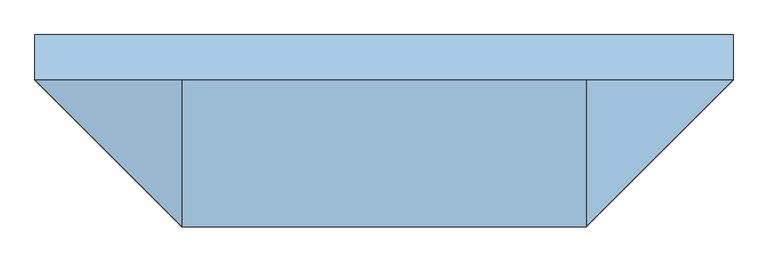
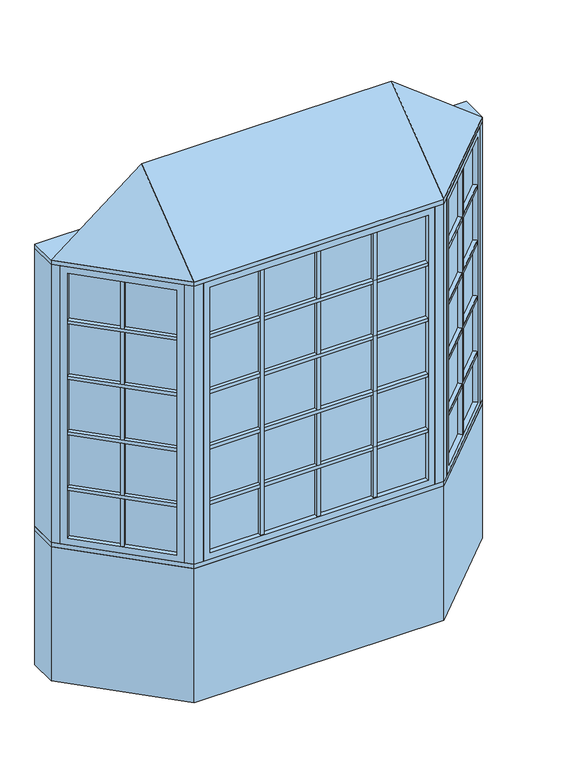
"""IFC4 building model written with IfcOpenShell, lengths in millimetres: window geometry, Pollard_Windows_Tudor Casement Bows and Bays : AML-BAY 45 AFR0616-12-600_GC."""

from ifc_helpers import new_model, si_unit, frame, origin, origin_with_axes, place, context, project, spatial, polyline, outline, extrude, faceted_brep, source, transform, mapped, element, save


def window_9ae6f43e(model_context):
    return source(origin(), model_context, "Body", "SolidModel", [
        extrude(outline(polyline([(739.5114193, -506.9608753), (723.9550701, -491.4045261), (1101.616171, -113.7434252), (1117.1725202, -129.2997743), (739.5114193, -506.9608753)])), frame((0.0, 0.0, 1110.998), z_axis=(0.0, 0.0, 1.0), x_axis=(1.0, 0.0, 0.0)), (0.0, 0.0, 1.0), 18.0),
        extrude(outline(polyline([(720.3629677, -487.8124236), (704.8066185, -472.2560744), (1082.4677194, -94.5949735), (1098.0240686, -110.1513227), (720.3629677, -487.8124236)])), frame((0.0, 0.0, 1110.998), z_axis=(0.0, 0.0, 1.0), x_axis=(1.0, 0.0, 0.0)), (0.0, 0.0, 1.0), 18.0),
        extrude(outline(polyline([(739.5114193, -506.9608753), (723.9550701, -491.4045261), (1101.616171, -113.7434252), (1117.1725202, -129.2997743), (739.5114193, -506.9608753)])), frame((0.0, 0.0, 1430.998), z_axis=(0.0, 0.0, 1.0), x_axis=(1.0, 0.0, 0.0)), (0.0, 0.0, 1.0), 18.0),
        extrude(outline(polyline([(720.3629677, -487.8124236), (704.8066185, -472.2560744), (1082.4677194, -94.5949735), (1098.0240686, -110.1513227), (720.3629677, -487.8124236)])), frame((0.0, 0.0, 1430.998), z_axis=(0.0, 0.0, 1.0), x_axis=(1.0, 0.0, 0.0)), (0.0, 0.0, 1.0), 18.0),
        extrude(outline(polyline([(739.5114193, -506.9608753), (723.9550701, -491.4045261), (1101.616171, -113.7434252), (1117.1725202, -129.2997743), (739.5114193, -506.9608753)])), frame((0.0, 0.0, 1750.998), z_axis=(0.0, 0.0, 1.0), x_axis=(1.0, 0.0, 0.0)), (0.0, 0.0, 1.0), 18.0),
        extrude(outline(polyline([(720.3629677, -487.8124236), (704.8066185, -472.2560744), (1082.4677194, -94.5949735), (1098.0240686, -110.1513227), (720.3629677, -487.8124236)])), frame((0.0, 0.0, 1750.998), z_axis=(0.0, 0.0, 1.0), x_axis=(1.0, 0.0, 0.0)), (0.0, 0.0, 1.0), 18.0),
        extrude(outline(polyline([(739.5114193, -506.9608753), (723.9550701, -491.4045261), (1101.616171, -113.7434252), (1117.1725202, -129.2997743), (739.5114193, -506.9608753)])), frame((0.0, 0.0, 2070.998), z_axis=(0.0, 0.0, 1.0), x_axis=(1.0, 0.0, 0.0)), (0.0, 0.0, 1.0), 18.0),
        extrude(outline(polyline([(720.3629677, -487.8124236), (704.8066185, -472.2560744), (1082.4677194, -94.5949735), (1098.0240686, -110.1513227), (720.3629677, -487.8124236)])), frame((0.0, 0.0, 2070.998), z_axis=(0.0, 0.0, 1.0), x_axis=(1.0, 0.0, 0.0)), (0.0, 0.0, 1.0), 18.0),
        extrude(outline(polyline([(919.1495816, -296.2100146), (934.7059308, -311.7663638), (921.9780087, -324.4942858), (906.4216595, -308.9379366), (919.1495816, -296.2100146)])), frame((0.0, 0.0, 835.8628), z_axis=(0.0, 0.0, 1.0), x_axis=(1.0, 0.0, 0.0)), (0.0, 0.0, 1.0), 1528.2704),
        extrude(outline(polyline([(915.5574791, -292.6179121), (902.8295571, -305.3458342), (887.2732079, -289.789485), (900.00113, -277.0615629), (915.5574791, -292.6179121)])), frame((0.0, 0.0, 835.8628), z_axis=(0.0, 0.0, 1.0), x_axis=(1.0, 0.0, 0.0)), (0.0, 0.0, 1.0), 1528.2704),
        extrude(outline(polyline([(1110.5964271, -104.763169), (714.974814, -500.3847822), (711.3827115, -496.7926797), (1107.0043247, -101.1710666), (1110.5964271, -104.763169)])), frame((0.0, 0.0, 823.1628), z_axis=(0.0, 0.0, 1.0), x_axis=(1.0, 0.0, 0.0)), (0.0, 0.0, 1.0), 1553.6704),
        faceted_brep([(1101.616171, -113.7434252, 835.8628), (1119.5766833, -131.7039374, 835.8628), (1119.5766833, -131.7039374, 2364.1332), (1101.616171, -113.7434252, 2364.1332), (1107.0043247, -101.1710666, 823.1628), (1110.5964271, -104.763169, 823.1628), (1110.5964271, -104.763169, 2376.8332), (1107.0043247, -101.1710666, 2376.8332), (1080.0635563, -92.1908105, 835.8628), (1098.0240686, -110.1513227, 835.8628), (1098.0240686, -110.1513227, 2364.1332), (1080.0635563, -92.1908105, 2364.1332), (1144.9369265, -106.3436941, 799.998), (1105.4237996, -66.8305672, 799.998), (1105.4237996, -66.8305672, 2399.998), (1144.9369265, -106.3436941, 2399.998), (741.9155823, -509.3650383, 2364.1332), (723.9550701, -491.4045261, 2364.1332), (714.974814, -500.3847822, 2376.8332), (711.3827115, -496.7926797, 2376.8332), (720.3629677, -487.8124236, 2364.1332), (702.4024554, -469.8519114, 2364.1332), (677.0422121, -495.2121547, 2399.998), (716.5553391, -534.7252816, 2399.998), (741.9155823, -509.3650383, 835.8628), (723.9550701, -491.4045261, 835.8628), (714.974814, -500.3847822, 823.1628), (711.3827115, -496.7926797, 823.1628), (720.3629677, -487.8124236, 835.8628), (702.4024554, -469.8519114, 835.8628), (677.0422121, -495.2121547, 799.998), (716.5553391, -534.7252816, 799.998)], [[[0, 1, 2, 3]], [[4, 5, 6, 7]], [[8, 9, 10, 11]], [[12, 13, 14, 15]], [[3, 2, 16, 17]], [[7, 6, 18, 19]], [[11, 10, 20, 21]], [[15, 14, 22, 23]], [[17, 16, 24, 25]], [[19, 18, 26, 27]], [[21, 20, 28, 29]], [[23, 22, 30, 31]], [[25, 24, 1, 0]], [[5, 26, 18, 6], [3, 17, 25, 0]], [[27, 26, 5, 4]], [[7, 19, 27, 4], [9, 28, 20, 10]], [[29, 28, 9, 8]], [[13, 30, 22, 14], [11, 21, 29, 8]], [[31, 30, 13, 12]], [[15, 23, 31, 12], [1, 24, 16, 2]]]),
        extrude(outline(polyline([(317.5177, -544.6806207), (317.5177, -566.6806207), (299.5177, -566.6806207), (299.5177, -544.6806207), (317.5177, -544.6806207)])), frame((0.0, 0.0, 835.8628), z_axis=(0.0, 0.0, 1.0), x_axis=(1.0, 0.0, 0.0)), (0.0, 0.0, 1.0), 1528.2704),
        extrude(outline(polyline([(317.5177, -539.6006207), (299.5177, -539.6006207), (299.5177, -517.6006207), (317.5177, -517.6006207), (317.5177, -539.6006207)])), frame((0.0, 0.0, 835.8628), z_axis=(0.0, 0.0, 1.0), x_axis=(1.0, 0.0, 0.0)), (0.0, 0.0, 1.0), 1528.2704),
        extrude(outline(polyline([(-299.5177, -544.6806207), (-299.5177, -566.6806207), (-317.5177, -566.6806207), (-317.5177, -544.6806207), (-299.5177, -544.6806207)])), frame((0.0, 0.0, 835.8628), z_axis=(0.0, 0.0, 1.0), x_axis=(1.0, 0.0, 0.0)), (0.0, 0.0, 1.0), 1528.2704),
        extrude(outline(polyline([(-299.5177, -539.6006207), (-317.5177, -539.6006207), (-317.5177, -517.6006207), (-299.5177, -517.6006207), (-299.5177, -539.6006207)])), frame((0.0, 0.0, 835.8628), z_axis=(0.0, 0.0, 1.0), x_axis=(1.0, 0.0, 0.0)), (0.0, 0.0, 1.0), 1528.2704),
        extrude(outline(polyline([(-595.3352, -566.6806207), (-595.3352, -544.6806207), (595.3352, -544.6806207), (595.3352, -566.6806207), (-595.3352, -566.6806207)])), frame((0.0, 0.0, 1110.998), z_axis=(0.0, 0.0, 1.0), x_axis=(1.0, 0.0, 0.0)), (0.0, 0.0, 1.0), 18.0),
        extrude(outline(polyline([(-595.3352, -539.6006207), (-595.3352, -517.6006207), (595.3352, -517.6006207), (595.3352, -539.6006207), (-595.3352, -539.6006207)])), frame((0.0, 0.0, 1110.998), z_axis=(0.0, 0.0, 1.0), x_axis=(1.0, 0.0, 0.0)), (0.0, 0.0, 1.0), 18.0),
        extrude(outline(polyline([(-595.3352, -566.6806207), (-595.3352, -544.6806207), (595.3352, -544.6806207), (595.3352, -566.6806207), (-595.3352, -566.6806207)])), frame((0.0, 0.0, 1430.998), z_axis=(0.0, 0.0, 1.0), x_axis=(1.0, 0.0, 0.0)), (0.0, 0.0, 1.0), 18.0),
        extrude(outline(polyline([(-595.3352, -539.6006207), (-595.3352, -517.6006207), (595.3352, -517.6006207), (595.3352, -539.6006207), (-595.3352, -539.6006207)])), frame((0.0, 0.0, 1430.998), z_axis=(0.0, 0.0, 1.0), x_axis=(1.0, 0.0, 0.0)), (0.0, 0.0, 1.0), 18.0),
        extrude(outline(polyline([(-595.3352, -566.6806207), (-595.3352, -544.6806207), (595.3352, -544.6806207), (595.3352, -566.6806207), (-595.3352, -566.6806207)])), frame((0.0, 0.0, 1750.998), z_axis=(0.0, 0.0, 1.0), x_axis=(1.0, 0.0, 0.0)), (0.0, 0.0, 1.0), 18.0),
        extrude(outline(polyline([(-595.3352, -539.6006207), (-595.3352, -517.6006207), (595.3352, -517.6006207), (595.3352, -539.6006207), (-595.3352, -539.6006207)])), frame((0.0, 0.0, 1750.998), z_axis=(0.0, 0.0, 1.0), x_axis=(1.0, 0.0, 0.0)), (0.0, 0.0, 1.0), 18.0),
        extrude(outline(polyline([(-1117.1725202, -129.2997743), (-1101.616171, -113.7434252), (-723.9550701, -491.4045261), (-739.5114193, -506.9608753), (-1117.1725202, -129.2997743)])), frame((0.0, 0.0, 1110.998), z_axis=(0.0, 0.0, 1.0), x_axis=(1.0, 0.0, 0.0)), (0.0, 0.0, 1.0), 18.0),
        extrude(outline(polyline([(-1098.0240686, -110.1513227), (-1082.4677194, -94.5949735), (-704.8066185, -472.2560744), (-720.3629677, -487.8124236), (-1098.0240686, -110.1513227)])), frame((0.0, 0.0, 1110.998), z_axis=(0.0, 0.0, 1.0), x_axis=(1.0, 0.0, 0.0)), (0.0, 0.0, 1.0), 18.0),
        extrude(outline(polyline([(-1117.1725202, -129.2997743), (-1101.616171, -113.7434252), (-723.9550701, -491.4045261), (-739.5114193, -506.9608753), (-1117.1725202, -129.2997743)])), frame((0.0, 0.0, 1430.998), z_axis=(0.0, 0.0, 1.0), x_axis=(1.0, 0.0, 0.0)), (0.0, 0.0, 1.0), 18.0),
        extrude(outline(polyline([(-1098.0240686, -110.1513227), (-1082.4677194, -94.5949735), (-704.8066185, -472.2560744), (-720.3629677, -487.8124236), (-1098.0240686, -110.1513227)])), frame((0.0, 0.0, 1430.998), z_axis=(0.0, 0.0, 1.0), x_axis=(1.0, 0.0, 0.0)), (0.0, 0.0, 1.0), 18.0),
        extrude(outline(polyline([(-1117.1725202, -129.2997743), (-1101.616171, -113.7434252), (-723.9550701, -491.4045261), (-739.5114193, -506.9608753), (-1117.1725202, -129.2997743)])), frame((0.0, 0.0, 1750.998), z_axis=(0.0, 0.0, 1.0), x_axis=(1.0, 0.0, 0.0)), (0.0, 0.0, 1.0), 18.0),
        extrude(outline(polyline([(-1098.0240686, -110.1513227), (-1082.4677194, -94.5949735), (-704.8066185, -472.2560744), (-720.3629677, -487.8124236), (-1098.0240686, -110.1513227)])), frame((0.0, 0.0, 1750.998), z_axis=(0.0, 0.0, 1.0), x_axis=(1.0, 0.0, 0.0)), (0.0, 0.0, 1.0), 18.0),
        extrude(outline(polyline([(-1117.1725202, -129.2997743), (-1101.616171, -113.7434252), (-723.9550701, -491.4045261), (-739.5114193, -506.9608753), (-1117.1725202, -129.2997743)])), frame((0.0, 0.0, 2070.998), z_axis=(0.0, 0.0, 1.0), x_axis=(1.0, 0.0, 0.0)), (0.0, 0.0, 1.0), 18.0),
        extrude(outline(polyline([(-1098.0240686, -110.1513227), (-1082.4677194, -94.5949735), (-704.8066185, -472.2560744), (-720.3629677, -487.8124236), (-1098.0240686, -110.1513227)])), frame((0.0, 0.0, 2070.998), z_axis=(0.0, 0.0, 1.0), x_axis=(1.0, 0.0, 0.0)), (0.0, 0.0, 1.0), 18.0),
        extrude(outline(polyline([(-595.3352, -566.6806207), (-595.3352, -544.6806207), (595.3352, -544.6806207), (595.3352, -566.6806207), (-595.3352, -566.6806207)])), frame((0.0, 0.0, 2070.998), z_axis=(0.0, 0.0, 1.0), x_axis=(1.0, 0.0, 0.0)), (0.0, 0.0, 1.0), 18.0),
        extrude(outline(polyline([(-595.3352, -539.6006207), (-595.3352, -517.6006207), (595.3352, -517.6006207), (595.3352, -539.6006207), (-595.3352, -539.6006207)])), frame((0.0, 0.0, 2070.998), z_axis=(0.0, 0.0, 1.0), x_axis=(1.0, 0.0, 0.0)), (0.0, 0.0, 1.0), 18.0),
        extrude(outline(polyline([(-906.4216595, -308.9379366), (-921.9780087, -324.4942858), (-934.7059308, -311.7663638), (-919.1495816, -296.2100146), (-906.4216595, -308.9379366)])), frame((0.0, 0.0, 835.8628), z_axis=(0.0, 0.0, 1.0), x_axis=(1.0, 0.0, 0.0)), (0.0, 0.0, 1.0), 1528.2704),
        extrude(outline(polyline([(-902.8295571, -305.3458342), (-915.5574791, -292.6179121), (-900.00113, -277.0615629), (-887.2732079, -289.789485), (-902.8295571, -305.3458342)])), frame((0.0, 0.0, 835.8628), z_axis=(0.0, 0.0, 1.0), x_axis=(1.0, 0.0, 0.0)), (0.0, 0.0, 1.0), 1528.2704),
        extrude(outline(polyline([(9.0, -544.6806207), (9.0, -566.6806207), (-9.0, -566.6806207), (-9.0, -544.6806207), (9.0, -544.6806207)])), frame((0.0, 0.0, 835.8628), z_axis=(0.0, 0.0, 1.0), x_axis=(1.0, 0.0, 0.0)), (0.0, 0.0, 1.0), 1528.2704),
        extrude(outline(polyline([(9.0, -539.6006207), (-9.0, -539.6006207), (-9.0, -517.6006207), (9.0, -517.6006207), (9.0, -539.6006207)])), frame((0.0, 0.0, 835.8628), z_axis=(0.0, 0.0, 1.0), x_axis=(1.0, 0.0, 0.0)), (0.0, 0.0, 1.0), 1528.2704),
        extrude(outline(polyline([(-714.974814, -500.3847822), (-1110.5964271, -104.763169), (-1107.0043247, -101.1710666), (-711.3827115, -496.7926797), (-714.974814, -500.3847822)])), frame((0.0, 0.0, 823.1628), z_axis=(0.0, 0.0, 1.0), x_axis=(1.0, 0.0, 0.0)), (0.0, 0.0, 1.0), 1553.6704),
        faceted_brep([(-720.3629677, -487.8124236, 2364.1332), (-702.4024554, -469.8519114, 2364.1332), (-702.4024554, -469.8519114, 835.8628), (-720.3629677, -487.8124236, 835.8628), (-714.974814, -500.3847822, 2376.8332), (-711.3827115, -496.7926797, 2376.8332), (-711.3827115, -496.7926797, 823.1628), (-714.974814, -500.3847822, 823.1628), (-741.9155823, -509.3650383, 2364.1332), (-723.9550701, -491.4045261, 2364.1332), (-723.9550701, -491.4045261, 835.8628), (-741.9155823, -509.3650383, 835.8628), (-677.0422121, -495.2121547, 2399.998), (-716.5553391, -534.7252816, 2399.998), (-716.5553391, -534.7252816, 799.998), (-677.0422121, -495.2121547, 799.998), (-1080.0635563, -92.1908105, 835.8628), (-1098.0240686, -110.1513227, 835.8628), (-1107.0043247, -101.1710666, 823.1628), (-1110.5964271, -104.763169, 823.1628), (-1101.616171, -113.7434252, 835.8628), (-1119.5766833, -131.7039374, 835.8628), (-1144.9369265, -106.3436941, 799.998), (-1105.4237996, -66.8305672, 799.998), (-1080.0635563, -92.1908105, 2364.1332), (-1098.0240686, -110.1513227, 2364.1332), (-1107.0043247, -101.1710666, 2376.8332), (-1110.5964271, -104.763169, 2376.8332), (-1101.616171, -113.7434252, 2364.1332), (-1119.5766833, -131.7039374, 2364.1332), (-1144.9369265, -106.3436941, 2399.998), (-1105.4237996, -66.8305672, 2399.998)], [[[0, 1, 2, 3]], [[4, 5, 6, 7]], [[8, 9, 10, 11]], [[12, 13, 14, 15]], [[3, 2, 16, 17]], [[7, 6, 18, 19]], [[11, 10, 20, 21]], [[15, 14, 22, 23]], [[17, 16, 24, 25]], [[19, 18, 26, 27]], [[21, 20, 28, 29]], [[23, 22, 30, 31]], [[15, 23, 31, 12], [1, 24, 16, 2]], [[25, 24, 1, 0]], [[5, 26, 18, 6], [3, 17, 25, 0]], [[27, 26, 5, 4]], [[7, 19, 27, 4], [9, 28, 20, 10]], [[29, 28, 9, 8]], [[13, 30, 22, 14], [11, 21, 29, 8]], [[31, 30, 13, 12]]]),
        extrude(outline(polyline([(608.0352, -544.6806207), (-608.0352, -544.6806207), (-608.0352, -539.6006207), (608.0352, -539.6006207), (608.0352, -544.6806207)])), frame((0.0, 0.0, 823.1628), z_axis=(0.0, 0.0, 1.0), x_axis=(1.0, 0.0, 0.0)), (0.0, 0.0, 1.0), 1553.6704),
        faceted_brep([(595.3352, -544.6806207, 835.8628), (595.3352, -570.0806207, 835.8628), (595.3352, -570.0806207, 2364.1332), (595.3352, -544.6806207, 2364.1332), (608.0352, -539.6006207, 823.1628), (608.0352, -544.6806207, 823.1628), (608.0352, -544.6806207, 2376.8332), (608.0352, -539.6006207, 2376.8332), (595.3352, -514.2006207, 835.8628), (595.3352, -539.6006207, 835.8628), (595.3352, -539.6006207, 2364.1332), (595.3352, -514.2006207, 2364.1332), (631.2, -570.0806207, 799.998), (631.2, -514.2006207, 799.998), (631.2, -514.2006207, 2399.998), (631.2, -570.0806207, 2399.998), (-595.3352, -570.0806207, 2364.1332), (-595.3352, -544.6806207, 2364.1332), (-608.0352, -544.6806207, 2376.8332), (-608.0352, -539.6006207, 2376.8332), (-595.3352, -539.6006207, 2364.1332), (-595.3352, -514.2006207, 2364.1332), (-631.2, -514.2006207, 2399.998), (-631.2, -570.0806207, 2399.998), (-595.3352, -570.0806207, 835.8628), (-595.3352, -544.6806207, 835.8628), (-608.0352, -544.6806207, 823.1628), (-608.0352, -539.6006207, 823.1628), (-595.3352, -539.6006207, 835.8628), (-595.3352, -514.2006207, 835.8628), (-631.2, -514.2006207, 799.998), (-631.2, -570.0806207, 799.998)], [[[0, 1, 2, 3]], [[4, 5, 6, 7]], [[8, 9, 10, 11]], [[12, 13, 14, 15]], [[3, 2, 16, 17]], [[7, 6, 18, 19]], [[11, 10, 20, 21]], [[15, 14, 22, 23]], [[17, 16, 24, 25]], [[19, 18, 26, 27]], [[21, 20, 28, 29]], [[23, 22, 30, 31]], [[15, 23, 31, 12], [1, 24, 16, 2]], [[25, 24, 1, 0]], [[5, 26, 18, 6], [3, 17, 25, 0]], [[27, 26, 5, 4]], [[7, 19, 27, 4], [9, 28, 20, 10]], [[29, 28, 9, 8]], [[13, 30, 22, 14], [11, 21, 29, 8]], [[31, 30, 13, 12]]]),
        faceted_brep([(1176.5, -74.7806207, 2425.398), (681.2, -570.0806207, 2425.398), (-681.2, -570.0806207, 2425.398), (-1176.5, -74.7806207, 2425.398), (-681.2, -74.7806207, 2806.398), (681.2, -74.7806207, 2806.398)], [[[0, 1, 2, 3]], [[3, 2, 4]], [[2, 1, 5, 4]], [[1, 0, 5]], [[0, 3, 4, 5]]]),
        extrude(outline(polyline([(-1176.5, 77.6193793), (1176.5, 77.6193793), (1176.5, -74.7806207), (681.2, -570.0806207), (-681.2, -570.0806207), (-1176.5, -74.7806207), (-1176.5, 77.6193793)])), frame((0.0, 0.0, 2399.998), z_axis=(0.0, 0.0, 1.0), x_axis=(1.0, 0.0, 0.0)), (0.0, 0.0, 1.0), 25.4),
        extrude(outline(polyline([(-1176.5, -74.7806207), (-1176.5, 77.6193793), (-1113.3738531, 77.6193793), (-1113.3738531, -74.7806207), (-1144.9369265, -106.3436941), (-1176.5, -74.7806207)])), frame((0.0, 0.0, 799.998), z_axis=(0.0, 0.0, 1.0), x_axis=(1.0, 0.0, 0.0)), (0.0, 0.0, 1.0), 1600.0),
        extrude(outline(polyline([(1176.5, 77.6193793), (1176.5, -74.7806207), (1144.9369265, -106.3436941), (1113.3738531, -74.7806207), (1113.3738531, 77.6193793), (1176.5, 77.6193793)])), frame((0.0, 0.0, 799.998), z_axis=(0.0, 0.0, 1.0), x_axis=(1.0, 0.0, 0.0)), (0.0, 0.0, 1.0), 1600.0),
        extrude(outline(polyline([(681.2, -570.0806207), (631.2, -570.0806207), (631.2, -520.0806207), (660.4893219, -520.0806207), (681.2, -499.3699425), (716.5553391, -534.7252816), (681.2, -570.0806207)])), frame((0.0, 0.0, 799.998), z_axis=(0.0, 0.0, 1.0), x_axis=(1.0, 0.0, 0.0)), (0.0, 0.0, 1.0), 1600.0),
        extrude(outline(polyline([(-681.2, -570.0806207), (-716.5553391, -534.7252816), (-681.2, -499.3699425), (-660.4893219, -520.0806207), (-631.2, -520.0806207), (-631.2, -570.0806207), (-681.2, -570.0806207)])), frame((0.0, 0.0, 799.998), z_axis=(0.0, 0.0, 1.0), x_axis=(1.0, 0.0, 0.0)), (0.0, 0.0, 1.0), 1600.0),
        extrude(outline(polyline([(-681.2, -570.0806207), (-1176.5, -74.7806207), (-1176.5, 77.6193793), (-1113.3738531, 77.6193793), (-618.0738531, -417.6806207), (618.0738531, -417.6806207), (1113.3738531, 77.6193793), (1176.5, 77.6193793), (1176.5, -74.7806207), (681.2, -570.0806207), (-681.2, -570.0806207)])), frame((0.0, 0.0, 774.598), z_axis=(0.0, 0.0, 1.0), x_axis=(1.0, 0.0, 0.0)), (0.0, 0.0, 1.0), 25.4),
        extrude(outline(polyline([(-1176.5, -74.7806207), (-1176.5, 77.6193793), (-1113.3738531, 77.6193793), (-618.0738531, -417.6806207), (618.0738531, -417.6806207), (1113.3738531, 77.6193793), (1176.5, 77.6193793), (1176.5, -74.7806207), (681.2, -570.0806207), (-681.2, -570.0806207), (-1176.5, -74.7806207)])), origin_with_axes(), (0.0, 0.0, 1.0), 774.598),
    ])


if __name__ == "__main__":
    model = new_model("IFC4")
    model_context = context("Model", 3, world=origin())
    ifc_project = project(units=[si_unit("LENGTHUNIT", "METRE", prefix="MILLI")], contexts=[model_context])
    site = spatial("IfcSite", under=ifc_project)
    building = spatial("IfcBuilding", under=site)
    placement = place(None, origin())
    window_shape = window_9ae6f43e(model_context)
    element("IfcWindow", 1, ObjectType="Pollard_Windows_Tudor Casement Bows and Bays : AML-BAY 45 AFR0616-12-600_GC", at=placement, inside=building, context=model_context, shape_type="MappedRepresentation", body=[
        mapped(window_shape, transform((0.0, 0.0, 0.0), x_axis=(1.0, 0.0, 0.0), y_axis=(0.0, 1.0, 0.0), z_axis=(0.0, 0.0, 1.0))),
    ])
    save(model, "model.ifc")
